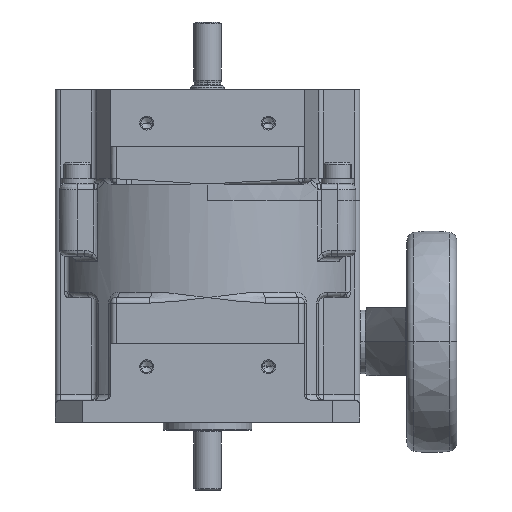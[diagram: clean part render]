
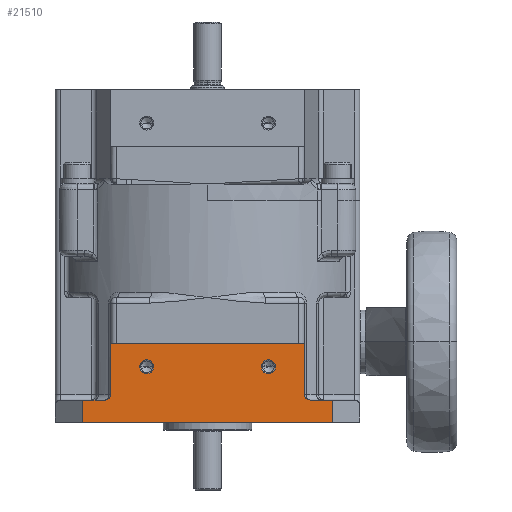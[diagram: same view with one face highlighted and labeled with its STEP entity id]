
A CAD part, front view. The second image highlights one B-rep face of the part: STEP entity #21510.
In plain terms, the highlighted planar face has unit normal (0, -1, 0).
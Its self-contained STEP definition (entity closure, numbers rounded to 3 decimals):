
#3490=CARTESIAN_POINT('',(16.,-13.,7.));
#3500=VERTEX_POINT('',#3490);
#3530=CARTESIAN_POINT('',(0.,-13.,7.));
#3540=DIRECTION('',(-1.,0.,0.));
#3550=VECTOR('',#3540,1.);
#3560=LINE('',#3530,#3550);
#3570=CARTESIAN_POINT('',(106.,-13.,7.));
#3580=VERTEX_POINT('',#3570);
#3590=EDGE_CURVE('',#3580,#3500,#3560,.T.);
#12560=CARTESIAN_POINT('',(96.,-13.,
17.));
#12570=VERTEX_POINT('',#12560);
#12600=CARTESIAN_POINT('',(96.,-13.,
0.));
#12610=DIRECTION('',(0.,0.,1.));
#12620=VECTOR('',#12610,1.);
#12630=LINE('',#12600,#12620);
#12640=CARTESIAN_POINT('',(96.,-13.,
35.5));
#12650=VERTEX_POINT('',#12640);
#12660=EDGE_CURVE('',#12570,#12650,#12630,.T.);
#14350=CARTESIAN_POINT('',(98.,-13.,
15.));
#14360=VERTEX_POINT('',#14350);
#14390=CARTESIAN_POINT('',(98.,-13.,
17.));
#14400=DIRECTION('',(0.,-1.,0.));
#14410=DIRECTION('',(-1.,0.,0.));
#14420=AXIS2_PLACEMENT_3D('',#14390,#14400,#14410);
#14430=CIRCLE('',#14420,2.);
#14440=EDGE_CURVE('',#12570,#14360,#14430,.T.);
#20460=CARTESIAN_POINT('',(121.731,-13.,35.5));
#20470=DIRECTION('',(-1.,0.,0.));
#20480=VECTOR('',#20470,1.);
#20490=LINE('',#20460,#20480);
#20500=CARTESIAN_POINT('',(26.,-13.,35.5));
#20510=VERTEX_POINT('',#20500);
#20520=EDGE_CURVE('',#12650,#20510,#20490,.T.);
#20650=CARTESIAN_POINT('',(125.269,-13.,7.
));
#20660=DIRECTION('',(0.,-1.,0.));
#20670=DIRECTION('',(1.,0.,0.));
#20680=AXIS2_PLACEMENT_3D('',#20650,#20660,#20670);
#20690=PLANE('',#20680);
#20700=CARTESIAN_POINT('',(83.,-13.,
27.));
#20710=DIRECTION('',(0.,-1.,0.));
#20720=DIRECTION('',(1.,0.,0.));
#20730=AXIS2_PLACEMENT_3D('',#20700,#20710,#20720);
#20740=CIRCLE('',#20730,2.533);
#20750=CARTESIAN_POINT('',(85.533,-13.,
27.));
#20760=VERTEX_POINT('',#20750);
#20770=CARTESIAN_POINT('',(80.467,-13.,
27.));
#20780=VERTEX_POINT('',#20770);
#20790=EDGE_CURVE('',#20760,#20780,#20740,.T.);
#20800=ORIENTED_EDGE('',*,*,#20790,.F.);
#20810=EDGE_CURVE('',#20780,#20760,#20740,.T.);
#20820=ORIENTED_EDGE('',*,*,#20810,.F.);
#20830=EDGE_LOOP('',(#20820,#20800));
#20840=FACE_BOUND('',#20830,.T.);
#20850=CARTESIAN_POINT('',(39.,-13.,
27.));
#20860=DIRECTION('',(0.,-1.,0.));
#20870=DIRECTION('',(1.,0.,0.));
#20880=AXIS2_PLACEMENT_3D('',#20850,#20860,#20870);
#20890=CIRCLE('',#20880,2.533);
#20900=CARTESIAN_POINT('',(41.533,-13.,
27.));
#20910=VERTEX_POINT('',#20900);
#20920=CARTESIAN_POINT('',(36.467,-13.,
27.));
#20930=VERTEX_POINT('',#20920);
#20940=EDGE_CURVE('',#20910,#20930,#20890,.T.);
#20950=ORIENTED_EDGE('',*,*,#20940,.F.);
#20960=EDGE_CURVE('',#20930,#20910,#20890,.T.);
#20970=ORIENTED_EDGE('',*,*,#20960,.F.);
#20980=EDGE_LOOP('',(#20970,#20950));
#20990=FACE_BOUND('',#20980,.T.);
#21000=CARTESIAN_POINT('',(106.,-13.,0.))
;
#21010=DIRECTION('',(0.,0.,-1.));
#21020=VECTOR('',#21010,1.);
#21030=LINE('',#21000,#21020);
#21040=CARTESIAN_POINT('',(106.,-13.,15.));
#21050=VERTEX_POINT('',#21040);
#21060=EDGE_CURVE('',#21050,#3580,#21030,.T.);
#21070=ORIENTED_EDGE('',*,*,#21060,.F.);
#21080=ORIENTED_EDGE('',*,*,#3590,.F.);
#21090=CARTESIAN_POINT('',(16.,-13.,0.));
#21100=DIRECTION('',(0.,0.,-1.));
#21110=VECTOR('',#21100,1.);
#21120=LINE('',#21090,#21110);
#21130=CARTESIAN_POINT('',(16.,-13.,15.));
#21140=VERTEX_POINT('',#21130);
#21150=EDGE_CURVE('',#21140,#3500,#21120,.T.);
#21160=ORIENTED_EDGE('',*,*,#21150,.T.);
#21170=CARTESIAN_POINT('',(0.,-13.,15.));
#21180=DIRECTION('',(-1.,0.,0.));
#21190=VECTOR('',#21180,1.);
#21200=LINE('',#21170,#21190);
#21210=CARTESIAN_POINT('',(24.,-13.,15.));
#21220=VERTEX_POINT('',#21210);
#21230=EDGE_CURVE('',#21220,#21140,#21200,.T.);
#21240=ORIENTED_EDGE('',*,*,#21230,.T.);
#21250=CARTESIAN_POINT('',(24.,-13.,17.));
#21260=DIRECTION('',(0.,1.,0.));
#21270=DIRECTION('',(1.,0.,0.));
#21280=AXIS2_PLACEMENT_3D('',#21250,#21260,#21270);
#21290=CIRCLE('',#21280,2.);
#21300=CARTESIAN_POINT('',(26.,-13.,17.));
#21310=VERTEX_POINT('',#21300);
#21320=EDGE_CURVE('',#21310,#21220,#21290,.T.);
#21330=ORIENTED_EDGE('',*,*,#21320,.T.);
#21340=CARTESIAN_POINT('',(26.,-13.,0.));
#21350=DIRECTION('',(0.,0.,1.));
#21360=VECTOR('',#21350,1.);
#21370=LINE('',#21340,#21360);
#21380=EDGE_CURVE('',#21310,#20510,#21370,.T.);
#21390=ORIENTED_EDGE('',*,*,#21380,.F.);
#21400=ORIENTED_EDGE('',*,*,#20520,.T.);
#21410=ORIENTED_EDGE('',*,*,#12660,.T.);
#21420=ORIENTED_EDGE('',*,*,#14440,.F.);
#21430=CARTESIAN_POINT('',(122.,-13.,15.));
#21440=DIRECTION('',(1.,0.,0.));
#21450=VECTOR('',#21440,1.);
#21460=LINE('',#21430,#21450);
#21470=EDGE_CURVE('',#14360,#21050,#21460,.T.);
#21480=ORIENTED_EDGE('',*,*,#21470,.F.);
#21490=EDGE_LOOP('',(#21480,#21420,#21410,#21400,#21390,#21330,#21240,
#21160,#21080,#21070));
#21500=FACE_OUTER_BOUND('',#21490,.T.);
#21510=ADVANCED_FACE('',(#20840,#20990,#21500),#20690,.T.);
